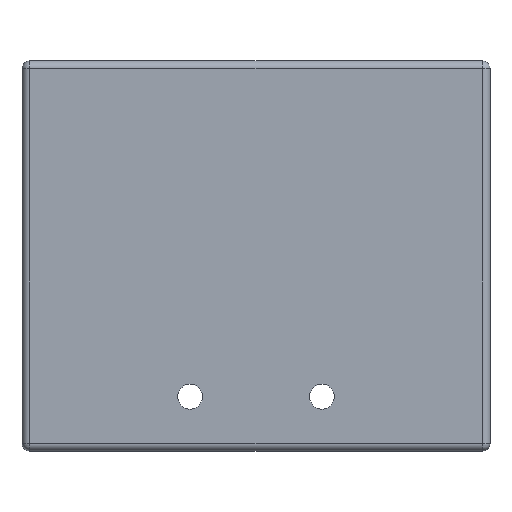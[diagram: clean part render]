
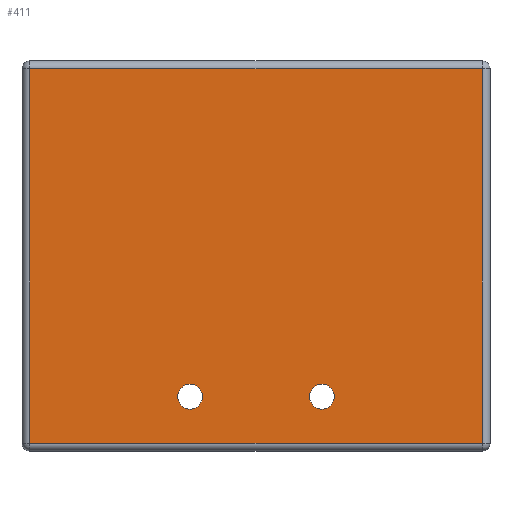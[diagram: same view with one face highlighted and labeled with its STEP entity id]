
A CAD part, top view. The second image highlights one B-rep face of the part: STEP entity #411.
In plain terms, the highlighted planar face has unit normal (0, 0, 1).
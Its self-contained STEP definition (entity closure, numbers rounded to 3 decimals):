
#4 = VERTEX_POINT ( 'NONE', #1087 ) ;
#7 = DIRECTION ( 'NONE',  ( 1., 0., 0. ) ) ;
#11 = DIRECTION ( 'NONE',  ( 0., 0., -1. ) ) ;
#65 = DIRECTION ( 'NONE',  ( 0., 0., 1. ) ) ;
#87 = VERTEX_POINT ( 'NONE', #762 ) ;
#90 = AXIS2_PLACEMENT_3D ( 'NONE', #382, #11, #1090 ) ;
#94 = FACE_BOUND ( 'NONE', #588, .T. ) ;
#112 = FACE_BOUND ( 'NONE', #879, .T. ) ;
#126 = DIRECTION ( 'NONE',  ( 0., 1., 0. ) ) ;
#158 = ORIENTED_EDGE ( 'NONE', *, *, #1047, .F. ) ;
#166 = AXIS2_PLACEMENT_3D ( 'NONE', #900, #1063, #622 ) ;
#168 = VECTOR ( 'NONE', #399, 1000. ) ;
#193 = ORIENTED_EDGE ( 'NONE', *, *, #753, .F. ) ;
#212 = VERTEX_POINT ( 'NONE', #433 ) ;
#239 = LINE ( 'NONE', #596, #790 ) ;
#247 = DIRECTION ( 'NONE',  ( -1., 0., 0. ) ) ;
#248 = EDGE_CURVE ( 'NONE', #344, #4, #1045, .T. ) ;
#266 = EDGE_CURVE ( 'NONE', #1049, #431, #1058, .T. ) ;
#281 = CARTESIAN_POINT ( 'NONE',  ( 29., 24., 3. ) ) ;
#290 = FACE_OUTER_BOUND ( 'NONE', #400, .T. ) ;
#315 = CARTESIAN_POINT ( 'NONE',  ( -29., 0., 3. ) ) ;
#327 = VERTEX_POINT ( 'NONE', #873 ) ;
#344 = VERTEX_POINT ( 'NONE', #281 ) ;
#350 = VECTOR ( 'NONE', #126, 1000. ) ;
#353 = AXIS2_PLACEMENT_3D ( 'NONE', #380, #905, #468 ) ;
#380 = CARTESIAN_POINT ( 'NONE',  ( 8.455, -18.04, 3. ) ) ;
#382 = CARTESIAN_POINT ( 'NONE',  ( 0., 0., 3. ) ) ;
#399 = DIRECTION ( 'NONE',  ( 0., -1., 0. ) ) ;
#400 = EDGE_LOOP ( 'NONE', ( #608, #1130, #494, #1121 ) ) ;
#411 = ADVANCED_FACE ( 'NONE', ( #290, #94, #112 ), #896, .F. ) ;
#413 = CARTESIAN_POINT ( 'NONE',  ( -8.455, -18.04, 3. ) ) ;
#429 = CARTESIAN_POINT ( 'NONE',  ( 0., 24., 3. ) ) ;
#431 = VERTEX_POINT ( 'NONE', #1086 ) ;
#433 = CARTESIAN_POINT ( 'NONE',  ( -29., -24., 3. ) ) ;
#438 = DIRECTION ( 'NONE',  ( 1., 0., 0. ) ) ;
#444 = VECTOR ( 'NONE', #247, 1000. ) ;
#468 = DIRECTION ( 'NONE',  ( 1., 0., 0. ) ) ;
#494 = ORIENTED_EDGE ( 'NONE', *, *, #942, .T. ) ;
#497 = EDGE_CURVE ( 'NONE', #327, #344, #574, .T. ) ;
#515 = DIRECTION ( 'NONE',  ( 1., 0., 0. ) ) ;
#574 = LINE ( 'NONE', #924, #350 ) ;
#588 = EDGE_LOOP ( 'NONE', ( #746, #193 ) ) ;
#596 = CARTESIAN_POINT ( 'NONE',  ( 0., -24., 3. ) ) ;
#607 = EDGE_CURVE ( 'NONE', #87, #1028, #921, .T. ) ;
#608 = ORIENTED_EDGE ( 'NONE', *, *, #248, .T. ) ;
#622 = DIRECTION ( 'NONE',  ( 1., 0., 0. ) ) ;
#665 = CIRCLE ( 'NONE', #166, 1.6 ) ;
#666 = CIRCLE ( 'NONE', #353, 1.6 ) ;
#746 = ORIENTED_EDGE ( 'NONE', *, *, #607, .F. ) ;
#753 = EDGE_CURVE ( 'NONE', #1028, #87, #665, .T. ) ;
#762 = CARTESIAN_POINT ( 'NONE',  ( -10.055, -18.04, 3. ) ) ;
#766 = DIRECTION ( 'NONE',  ( 0., 0., 1. ) ) ;
#772 = CARTESIAN_POINT ( 'NONE',  ( 8.455, -18.04, 3. ) ) ;
#790 = VECTOR ( 'NONE', #7, 1000. ) ;
#820 = CARTESIAN_POINT ( 'NONE',  ( -6.855, -18.04, 3. ) ) ;
#860 = ORIENTED_EDGE ( 'NONE', *, *, #266, .F. ) ;
#873 = CARTESIAN_POINT ( 'NONE',  ( 29., -24., 3. ) ) ;
#879 = EDGE_LOOP ( 'NONE', ( #158, #860 ) ) ;
#896 = PLANE ( 'NONE',  #90 ) ;
#900 = CARTESIAN_POINT ( 'NONE',  ( -8.455, -18.04, 3. ) ) ;
#905 = DIRECTION ( 'NONE',  ( 0., 0., 1. ) ) ;
#921 = CIRCLE ( 'NONE', #1128, 1.6 ) ;
#924 = CARTESIAN_POINT ( 'NONE',  ( 29., 0., 3. ) ) ;
#942 = EDGE_CURVE ( 'NONE', #212, #327, #239, .T. ) ;
#1028 = VERTEX_POINT ( 'NONE', #820 ) ;
#1037 = AXIS2_PLACEMENT_3D ( 'NONE', #772, #766, #515 ) ;
#1045 = LINE ( 'NONE', #429, #444 ) ;
#1047 = EDGE_CURVE ( 'NONE', #431, #1049, #666, .T. ) ;
#1049 = VERTEX_POINT ( 'NONE', #1066 ) ;
#1058 = CIRCLE ( 'NONE', #1037, 1.6 ) ;
#1063 = DIRECTION ( 'NONE',  ( 0., 0., 1. ) ) ;
#1066 = CARTESIAN_POINT ( 'NONE',  ( 10.055, -18.04, 3. ) ) ;
#1086 = CARTESIAN_POINT ( 'NONE',  ( 6.855, -18.04, 3. ) ) ;
#1087 = CARTESIAN_POINT ( 'NONE',  ( -29., 24., 3. ) ) ;
#1089 = EDGE_CURVE ( 'NONE', #4, #212, #1103, .T. ) ;
#1090 = DIRECTION ( 'NONE',  ( -1., 0., 0. ) ) ;
#1103 = LINE ( 'NONE', #315, #168 ) ;
#1121 = ORIENTED_EDGE ( 'NONE', *, *, #497, .T. ) ;
#1128 = AXIS2_PLACEMENT_3D ( 'NONE', #413, #65, #438 ) ;
#1130 = ORIENTED_EDGE ( 'NONE', *, *, #1089, .T. ) ;
